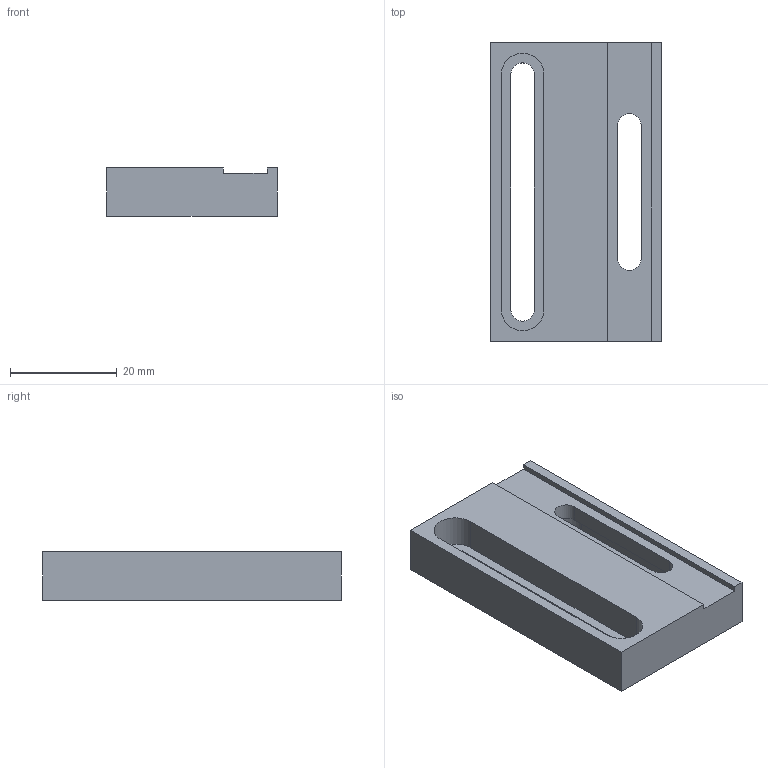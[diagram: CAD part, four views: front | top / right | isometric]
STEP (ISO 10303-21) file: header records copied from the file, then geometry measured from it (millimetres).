
FILE_DESCRIPTION(/* description */ (''),/* implementation_level */ '2;1');
FILE_NAME(/* name */ '',/* time_stamp */ '2025-11-27T10:55:42+08:00',/* author */ ('Q'),/* organization */ (''),/* preprocessor_version */ 'ST-DEVELOPER v19.2',/* originating_system */ 'Autodesk Inventor 2024',/* authorisation */ '');
FILE_SCHEMA (('AUTOMOTIVE_DESIGN { 1 0 10303 214 3 1 1 }'));
Length unit declared in the file: millimetre
Products named in the file (1): eom底座
Bounding box: 32 x 56 x 9 mm (x, y, z)
Volume: 11001.8 mm3; surface area: 6147 mm2
Topology: 1 solids, 1 shells, 28 faces, 108 edges, 144 vertices
Faces by surface type: plane 20, cylinder 8
Entity records: 1140 total; most frequent: CARTESIAN_POINT 259, DIRECTION 174, ORIENTED_EDGE 144, EDGE_CURVE 72, AXIS2_PLACEMENT_3D 59, LINE 56, VECTOR 56, VERTEX_POINT 48
